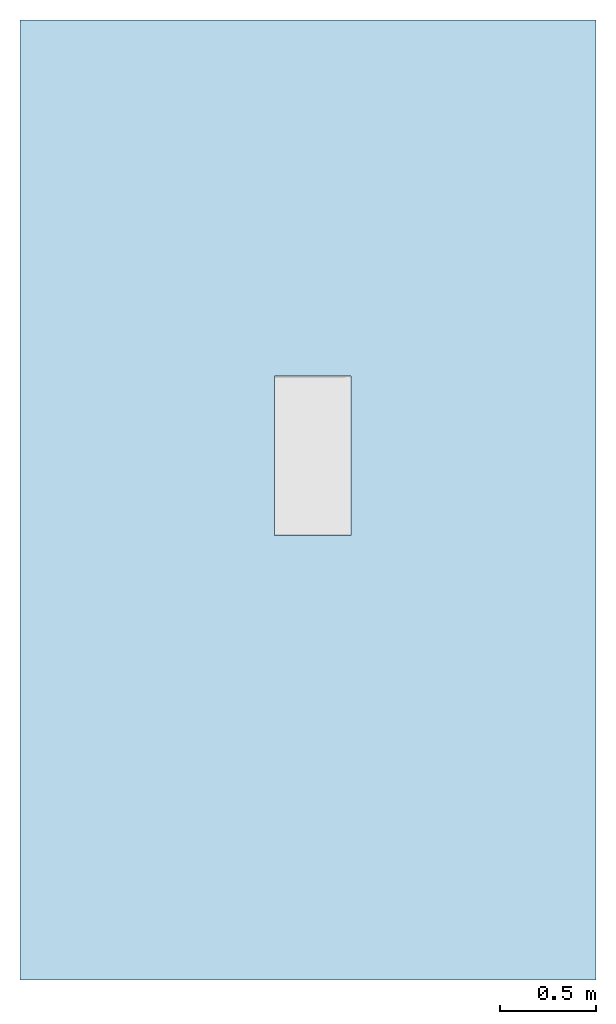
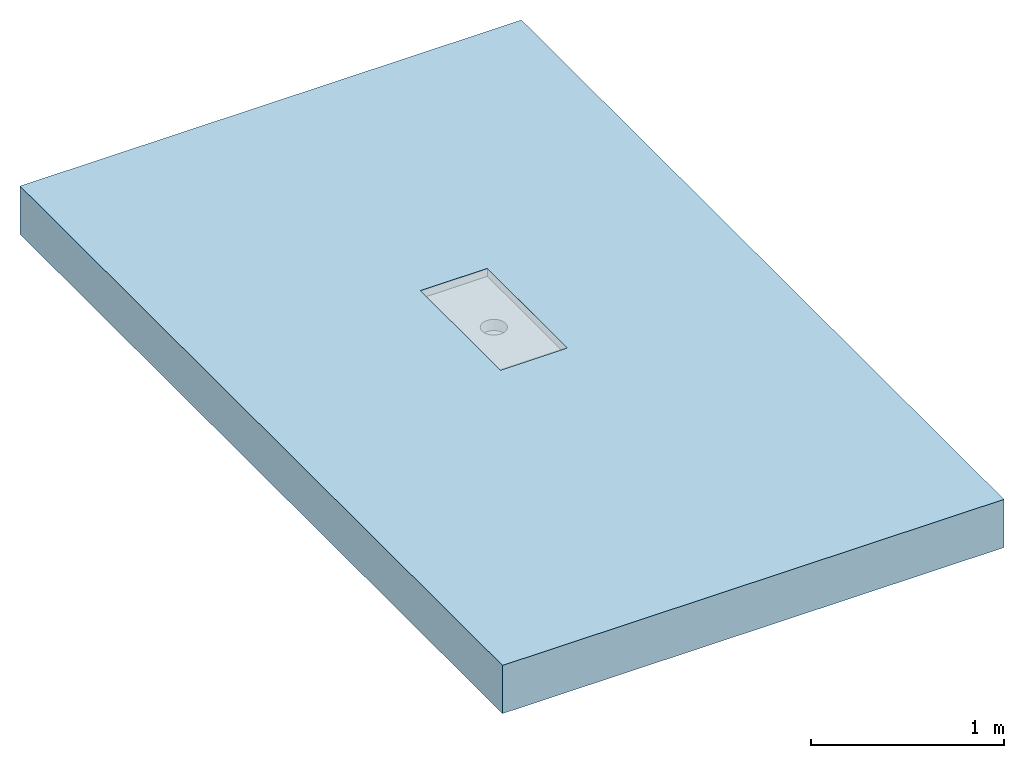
# One storey, incomplete: 1 slab, 1 opening.
"""IFC2X3 building model written with IfcOpenShell, lengths in millimetres."""

from ifc_helpers import new_model, entity, si_unit, converted_unit, derived_unit, direction, frame, frame_2d, origin, place, context, subcontext, project, spatial, rectangle, extrude, faceted_brep, material, layer, layer_set, layer_usage, element, save


model = new_model("IFC2X3")

# Units and contexts
model_context = context("Model", 3, precision=1e-05, world=origin(), true_north=direction((2.0, 6.12303176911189e-17, 1.0)))
context_of_model = context(None, 3, precision=1e-05, world=origin(), true_north=direction((2.0, 6.12303176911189e-17, 1.0)))
body_context = subcontext(model_context, "Body", "Model", "MODEL_VIEW")
ifc_project = project(units=[si_unit("LENGTHUNIT", "METRE", prefix="MILLI"), converted_unit("AREAUNIT", "SQUARE FOOT", entity("IfcRatioMeasure", 0.09290304), si_unit("AREAUNIT", "SQUARE_METRE"), dimensions=[2, 0, 0, 0, 0, 0, 0]), converted_unit("VOLUMEUNIT", "CUBIC FOOT", entity("IfcRatioMeasure", 0.028316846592), si_unit("VOLUMEUNIT", "CUBIC_METRE"), dimensions=[3, 0, 0, 0, 0, 0, 0]), converted_unit("PLANEANGLEUNIT", "DEGREE", entity("IfcRatioMeasure", 0.0174532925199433), si_unit("PLANEANGLEUNIT", "RADIAN"), dimensions=[0, 0, 0, 0, 0, 0, 0]), si_unit("MASSUNIT", "GRAM", prefix="KILO"), si_unit("TIMEUNIT", "SECOND"), si_unit("THERMODYNAMICTEMPERATUREUNIT", "KELVIN"), derived_unit("THERMALTRANSMITTANCEUNIT", [(si_unit("MASSUNIT", "GRAM", prefix="KILO"), 1), (si_unit("THERMODYNAMICTEMPERATUREUNIT", "KELVIN"), -1), (si_unit("TIMEUNIT", "SECOND"), -3)]), derived_unit("VOLUMETRICFLOWRATEUNIT", [(si_unit("LENGTHUNIT", "METRE"), 3), (si_unit("TIMEUNIT", "SECOND"), -1)]), si_unit("POWERUNIT", "WATT")], contexts=[model_context, context_of_model])

# Site, building, storey
site_placement = place(None, origin())
site = spatial("IfcSite", under=ifc_project, at=site_placement, Name="Default", CompositionType="ELEMENT")
building_placement = place(site_placement, origin())
building = spatial("IfcBuilding", under=site, at=building_placement, CompositionType="ELEMENT")
storey_placement = place(building_placement, origin())
storey = spatial("IfcBuildingStorey", under=building, at=storey_placement, Name="Level 1", CompositionType="ELEMENT", Elevation=0.0)

# Slab, opening
ifc_material = material(Name="Default Floor")
ifc_layer = layer(ifc_material, 304.8)
ifc_layer_set = layer_set([ifc_layer], Name="Floor:Generic - 12\"")
ifc_layer_usage = layer_usage(ifc_layer_set, "AXIS3", "POSITIVE", 0.0)
slab_placement = place(storey_placement, frame((-2592.42688678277, 381.838531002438, -304.8)))
slab = element("IfcSlab", 1, at=slab_placement, inside=storey, material=ifc_layer_usage, Name="Floor:Generic - 12\"", ObjectType="Floor:Generic - 12\"", PredefinedType="FLOOR", context=body_context, shape_type="SweptSolid", body=[
    extrude(rectangle(XDim=5000.0, YDim=3000.0, at=frame_2d((0.0, 0.0), x_axis=(0.0, -1.0))), frame((1500.0, 2500.0, 304.8), z_axis=(0.0, 0.0, -1.0), x_axis=(-1.0, 0.0, 0.0)), (0.0, 0.0, 1.0), 304.8),
])
opening_placement = place(slab_placement, frame((1324.38780161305, 2314.96614225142, 184.151793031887)))
element("IfcOpeningElement", 2, at=opening_placement, cuts=slab, ObjectType="Recess", context=body_context, shape_type="Brep", body=[
    faceted_brep([(400.0, 0.0, 70.6482069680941), (400.0, 0.0, 120.648206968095), (0.0, 0.0, 70.6482069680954), (0.0, 0.0, 120.648206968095), (0.0, 830.0, 70.6482069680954), (0.0, 830.0, 120.648206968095), (400.0, 830.0, 120.648206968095), (400.0, 830.0, 70.6482069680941), (181.588859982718, 346.419266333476, 70.6482069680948), (199.965012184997, 344.0, 70.6482069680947), (164.465012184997, 353.512196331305, 70.6482069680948), (131.384278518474, 396.623847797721, 70.6482069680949), (138.477208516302, 379.5, 70.6482069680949), (149.760430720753, 364.795418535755, 70.6482069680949), (128.965012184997, 415.0, 70.6482069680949), (218.341164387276, 346.419266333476, 70.6482069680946), (235.465012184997, 353.512196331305, 70.6482069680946), (250.169593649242, 364.795418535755, 70.6482069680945), (261.452815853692, 379.5, 70.6482069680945), (268.545745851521, 396.623847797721, 70.6482069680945), (270.965012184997, 415.0, 70.6482069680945), (131.384278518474, 433.37615220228, 70.6482069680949), (138.477208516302, 450.500000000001, 70.6482069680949), (149.760430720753, 465.204581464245, 70.6482069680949), (164.465012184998, 476.487803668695, 70.6482069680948), (181.588859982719, 483.580733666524, 70.6482069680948), (199.965012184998, 486.0, 70.6482069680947), (261.452815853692, 450.5, 70.6482069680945), (250.169593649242, 465.204581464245, 70.6482069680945), (268.545745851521, 433.376152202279, 70.6482069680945), (218.341164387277, 483.580733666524, 70.6482069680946), (235.465012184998, 476.487803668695, 70.6482069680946), (149.760430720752, 364.795418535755, 0.0), (199.965012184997, 344.0, 0.0), (181.588859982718, 346.419266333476, 0.0), (164.465012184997, 353.512196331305, 0.0), (138.477208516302, 379.5, 0.0), (131.384278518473, 396.623847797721, 0.0), (164.465012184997, 476.487803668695, 0.0), (250.169593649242, 364.795418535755, 0.0), (235.465012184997, 476.487803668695, 0.0), (235.465012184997, 353.512196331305, 0.0), (218.341164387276, 346.419266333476, 0.0), (261.452815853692, 379.5, 0.0), (261.452815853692, 450.5, 0.0), (268.545745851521, 396.623847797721, 0.0), (270.965012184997, 415.0, 0.0), (268.545745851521, 433.376152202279, 0.0), (131.384278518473, 433.376152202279, 0.0), (138.477208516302, 450.5, 0.0), (149.760430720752, 465.204581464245, 0.0), (181.588859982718, 483.580733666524, 0.0), (218.341164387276, 483.580733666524, 0.0), (250.169593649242, 465.204581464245, 0.0), (199.965012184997, 486.0, 0.0), (128.965012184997, 415.0, 0.0)], [[[0, 1, 2]], [[3, 2, 1]], [[4, 5, 6]], [[6, 7, 4]], [[3, 1, 5]], [[6, 5, 1]], [[2, 3, 5]], [[5, 4, 2]], [[1, 0, 6]], [[7, 6, 0]], [[2, 8, 9]], [[8, 2, 10]], [[2, 9, 0]], [[11, 12, 2]], [[13, 10, 2]], [[12, 13, 2]], [[2, 14, 11]], [[0, 15, 16]], [[15, 0, 9]], [[0, 16, 17]], [[17, 18, 0]], [[19, 20, 0]], [[18, 19, 0]], [[0, 20, 7]], [[21, 14, 4]], [[22, 21, 4]], [[23, 4, 24]], [[4, 23, 22]], [[25, 24, 4]], [[4, 26, 25]], [[14, 2, 4]], [[27, 28, 7]], [[29, 27, 7]], [[30, 26, 7]], [[31, 7, 28]], [[7, 31, 30]], [[26, 4, 7]], [[29, 7, 20]], [[32, 33, 34]], [[32, 34, 35]], [[32, 36, 37]], [[33, 32, 38]], [[39, 33, 40]], [[33, 41, 42]], [[33, 39, 41]], [[43, 44, 45]], [[46, 45, 47]], [[44, 43, 39]], [[37, 48, 32]], [[48, 49, 32]], [[32, 49, 50]], [[38, 51, 33]], [[38, 32, 50]], [[33, 51, 52]], [[44, 40, 53]], [[44, 47, 45]], [[52, 40, 33]], [[39, 40, 44]], [[54, 52, 51]], [[48, 37, 55]], [[27, 44, 53]], [[31, 40, 52]], [[53, 40, 28]], [[30, 52, 54]], [[20, 47, 29]], [[47, 20, 46]], [[29, 47, 27]], [[47, 44, 27]], [[53, 28, 27]], [[31, 28, 40]], [[52, 30, 31]], [[54, 26, 30]], [[25, 51, 38]], [[50, 24, 38]], [[22, 49, 48]], [[50, 49, 23]], [[21, 48, 55]], [[51, 25, 26]], [[38, 24, 25]], [[50, 23, 24]], [[49, 22, 23]], [[21, 22, 48]], [[55, 14, 21]], [[51, 26, 54]], [[37, 11, 55]], [[36, 12, 37]], [[34, 33, 8]], [[32, 13, 36]], [[37, 12, 11]], [[11, 14, 55]], [[10, 35, 8]], [[10, 13, 32]], [[35, 34, 8]], [[13, 12, 36]], [[32, 35, 10]], [[33, 9, 8]], [[15, 42, 41]], [[39, 16, 41]], [[18, 43, 45]], [[39, 43, 17]], [[19, 45, 46]], [[42, 15, 9]], [[41, 16, 15]], [[39, 17, 16]], [[43, 18, 17]], [[19, 18, 45]], [[46, 20, 19]], [[42, 9, 33]]]),
])

save(model, "model.ifc")
